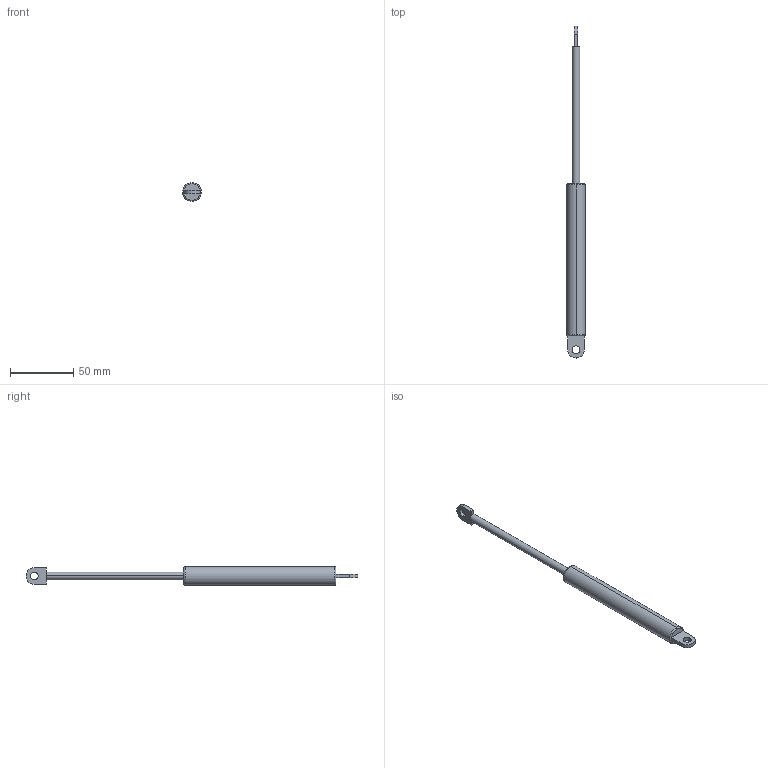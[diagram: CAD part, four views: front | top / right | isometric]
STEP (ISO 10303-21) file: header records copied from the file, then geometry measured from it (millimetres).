
FILE_DESCRIPTION (( 'STEP AP203' ), '1' );
FILE_NAME ('084.527.006.STEP', '2018-03-09T14:24:52', ( '' ), ( '' ), 'SwSTEP 2.0', 'SolidWorks 2016', '' );
FILE_SCHEMA (( 'CONFIG_CONTROL_DESIGN' ));
Length unit declared in the file: millimetre
Products named in the file (3): 084.527.002 - CORPO; 084.527.006; 084.527.002 - STELO_Default<A macchina>
Assembly tree (2 placements, depth 2):
  084.527.006
    084.527.002 - CORPO
    084.527.002 - STELO_Default<A macchina>
Bounding box: 15 x 261.96 x 15 mm (x, y, z)
Volume: 25736.9 mm3; surface area: 9385.3 mm2
Topology: 2 solids, 2 shells, 30 faces, 70 edges, 44 vertices
Faces by surface type: plane 16, cylinder 10, torus 4
Entity records: 1187 total; most frequent: CARTESIAN_POINT 171, DIRECTION 168, ORIENTED_EDGE 140, EDGE_CURVE 70, AXIS2_PLACEMENT_3D 69, VERTEX_POINT 44, CIRCLE 34, EDGE_LOOP 34
